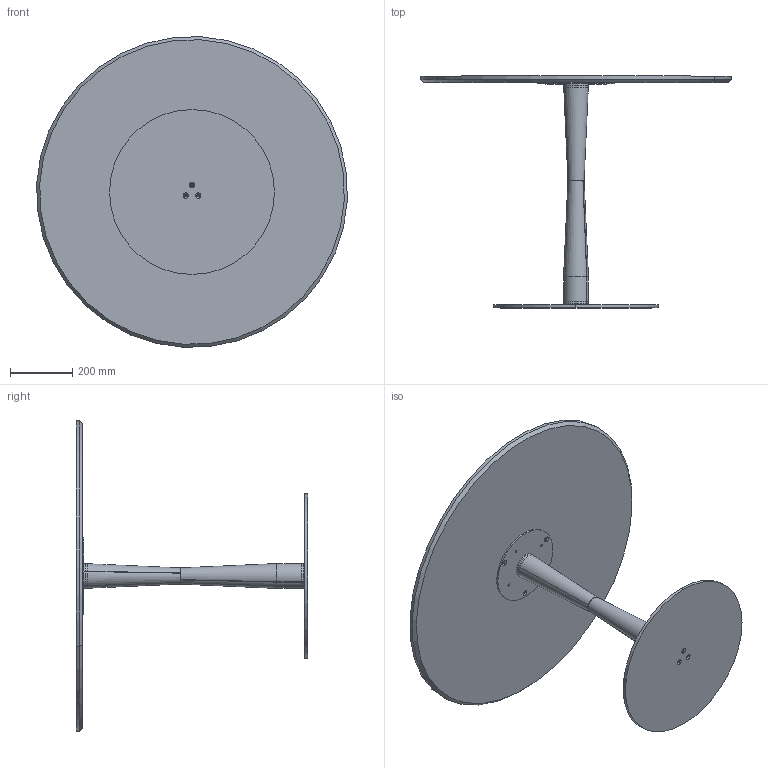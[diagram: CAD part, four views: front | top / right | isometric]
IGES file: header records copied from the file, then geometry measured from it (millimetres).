
Start section: SolidWorks IGES file using analytic representation for surfaces
Global section: file name: Y:\eforma\TECNICO\SOLIDWORKS\E-FORMA\5-TAVOLINI BISTRO\FILÚ\02 parts\FI30M.IGS; native system: SolidWorks 2022; preprocessor: SolidWorks 2022; author: eforma.tech; date: 240808.100041; units: millimetre
Bounding box: 998.53 x 745 x 998.53 mm (x, y, z)
Volume: 18329972.2 mm3; surface area: 2492247.7 mm2
Topology: 7 solids, 7 shells, 120 faces, 278 edges, 168 vertices
Faces by surface type: revolution 106, plane 14
